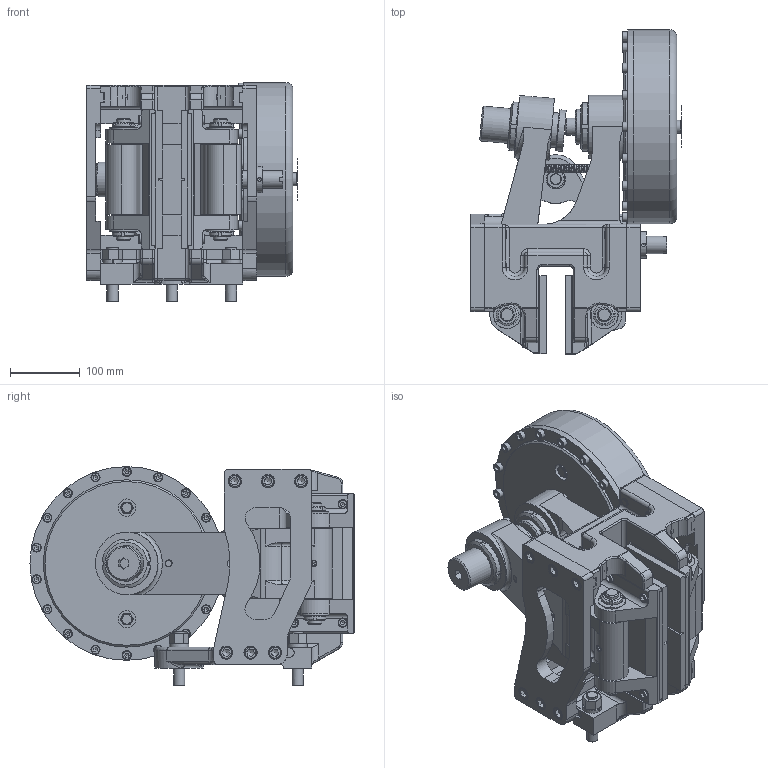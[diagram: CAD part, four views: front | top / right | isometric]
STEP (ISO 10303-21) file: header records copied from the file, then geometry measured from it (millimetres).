
FILE_DESCRIPTION(/* description */ ('','CAx-IF Rec.Pracs.---Representation and Presentation of Product Manufacturing Information (PMI)---4.0---2014-10-13'),/* implementation_level */ '2;1');
FILE_NAME(/* name */ 'X:\INVENTOR\DISEGNI\19_Pinze\STEP x Sito\PNEUM-POSITIVE\19_16_068_04 PPT068_25,4.stp',/* time_stamp */ '2018-10-25T15:46:42+02:00',/* author */ ('stefano'),/* organization */ (''),/* preprocessor_version */ 'ST-DEVELOPER v17',/* originating_system */ 'Autodesk Inventor 2018',/* authorisation */ '');
FILE_SCHEMA (('AP242_MANAGED_MODEL_BASED_3D_ENGINEERING_MIM_LF { 1 0 10303 442 1 1 4 }'));
Products named in the file (1): 19_16_068_04 PPT068_25,4_Substitute_2
Bounding box: 302.1 x 465 x 314 mm (x, y, z)
Volume: 12774863.6 mm3; surface area: 1101147.8 mm2
Topology: 1 solids, 1 shells, 1795 faces, 4947 edges, 3214 vertices
Faces by surface type: plane 904, cylinder 479, torus 184, cone 176, bspline 32, sphere 20
Full cylindrical faces by diameter (mm): 1.8 x2, 5.25 x4, 7.4 x1, 7.5 x2, 8 x9, 8.376 x1, 8.5 x8, 8.917 x2, 9 x1, 9.188 x1, 10 x2, 10.106 x3, 10.5 x4, 12 x15, 12.5 x12, 13 x27, 13.5 x8, 14 x1, 16 x6, 16.5 x4, 17 x3, 18 x14, 18.631 x1, 19 x12, 19.5 x1, 20 x12, 22 x6, 25 x7, 28 x1, 33.6 x1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
Entity records: 68741 total; most frequent: CARTESIAN_POINT 21592, ORIENTED_EDGE 9744, DIRECTION 9572, EDGE_CURVE 4872, AXIS2_PLACEMENT_3D 3640, VERTEX_POINT 3214, LINE 2292, VECTOR 2292
